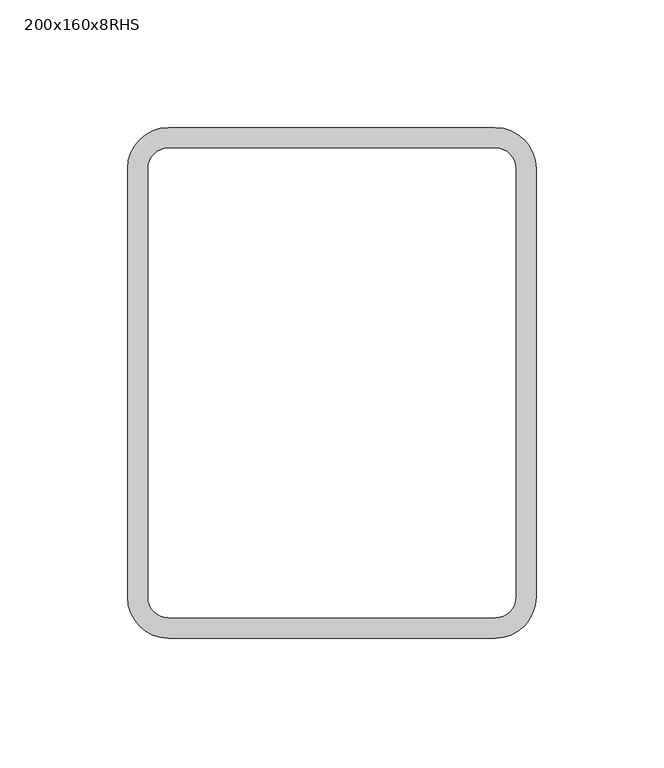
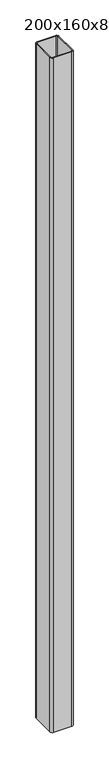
"""IFC4 building model written with IfcOpenShell, lengths in millimetres: column geometry, ППС-Прямоугольное пустотелое сечение-Колонна : 200x160x8RHS."""

import ifcopenshell
import ifcopenshell.guid

model = None  # the IFC model being written
_history = None  # IfcOwnerHistory: only IFC2X3 demands one
_inside = {}  # id of a spatial element -> (the spatial element, [elements in it])
_under = {}  # id of a project, library or spatial element -> (it, [spatial elements below it])
_declared = {}  # id of a project -> (the project, [libraries it declares])
_typed = {}  # id of a type object -> (the type object, [elements of that type])
_made_of = {}  # id of a material, layer set ... -> (it, [elements and type objects made of it])


def new_model(schema):
    """Start an empty IFC model of exactly this schema.

    Asked for "IFC4X3", IfcOpenShell would pick the latest addendum, in which some entities
    have other attributes; the version numbers below select the first issue.
    IFC2X3 requires an IfcOwnerHistory on every rooted entity: one is made here for all.
    """
    global model, _history
    if schema == "IFC4X3":
        model = ifcopenshell.file(schema_version=(4, 3, 0, 0))
    else:
        model = ifcopenshell.file(schema=schema)
    _inside.clear()
    _under.clear()
    _declared.clear()
    _typed.clear()
    _made_of.clear()
    _history = None
    if model.schema == "IFC2X3":
        org = make("IfcOrganization", Name="unknown")
        user = make(
            "IfcPersonAndOrganization",
            ThePerson=make("IfcPerson", FamilyName="unknown"),
            TheOrganization=org,
        )
        app = make(
            "IfcApplication",
            ApplicationDeveloper=org,
            Version="unknown",
            ApplicationFullName="unknown",
            ApplicationIdentifier="unknown",
        )
        _history = make(
            "IfcOwnerHistory",
            OwningUser=user,
            OwningApplication=app,
            ChangeAction="ADDED",
            CreationDate=0,
        )
    return model


def make(cls, **values):
    """One entity of the class cls with the attributes given. An attribute that is None is left unset."""
    return model.create_entity(
        cls, **{name: value for name, value in values.items() if value is not None}
    )


def rooted(cls, **values):
    """An entity with a GlobalId (a new one), such as an element, a storey or a relation."""
    return make(cls, GlobalId=ifcopenshell.guid.new(), OwnerHistory=_history, **values)


def si_unit(unit_type, name, prefix=None):
    """IfcSIUnit, for example si_unit("LENGTHUNIT", "METRE", prefix="MILLI")."""
    return make("IfcSIUnit", UnitType=unit_type, Prefix=prefix, Name=name)


def assignment(units):
    """IfcUnitAssignment: the units of a project."""
    return None if units is None else make("IfcUnitAssignment", Units=units)


def point(xyz):
    """IfcCartesianPoint."""
    return None if xyz is None else make("IfcCartesianPoint", Coordinates=xyz)


def direction(xyz):
    """IfcDirection."""
    return None if xyz is None else make("IfcDirection", DirectionRatios=xyz)


def frame(location, z_axis=None, x_axis=None):
    """IfcAxis2Placement3D, a coordinate frame: its origin and axes. An axis left out is left unset."""
    return make(
        "IfcAxis2Placement3D",
        Location=point(location),
        Axis=direction(z_axis),
        RefDirection=direction(x_axis),
    )


def frame_2d(location, x_axis=None):
    """IfcAxis2Placement2D, a coordinate frame in the plane: its origin and x axis."""
    return make(
        "IfcAxis2Placement2D", Location=point(location), RefDirection=direction(x_axis)
    )


def origin():
    """The frame at (0, 0, 0) with its axes left unset."""
    return frame((0.0, 0.0, 0.0))


def origin_with_axes():
    """The frame at (0, 0, 0) with the z axis (0, 0, 1) and the x axis (1, 0, 0) written out."""
    return frame((0.0, 0.0, 0.0), z_axis=(0.0, 0.0, 1.0), x_axis=(1.0, 0.0, 0.0))


def place(relative_to, where):
    """IfcLocalPlacement: puts the frame where relative to a parent placement (None: the world)."""
    return make(
        "IfcLocalPlacement", PlacementRelTo=relative_to, RelativePlacement=where
    )


def context(
    kind, dimensions, precision=None, world=None, true_north=None, identifier=None
):
    """IfcGeometricRepresentationContext, for example the 3D "Model" context."""
    return make(
        "IfcGeometricRepresentationContext",
        ContextIdentifier=identifier,
        ContextType=kind,
        CoordinateSpaceDimension=dimensions,
        Precision=precision,
        WorldCoordinateSystem=world,
        TrueNorth=true_north,
    )


def project(units=None, contexts=None):
    """IfcProject with its units and contexts."""
    return rooted(
        "IfcProject",
        Name="project",
        RepresentationContexts=contexts,
        UnitsInContext=assignment(units),
    )


def spatial(cls, under=None, at=None, **own):
    """A site, building, storey or space (cls), placed at a placement, below another one or the project."""
    s = rooted(cls, ObjectPlacement=at, **own)
    if under is not None:
        _under.setdefault(under.id(), (under, []))[1].append(s)
    return s


def polyline(points):
    """IfcPolyline through the points."""
    return make("IfcPolyline", Points=[point(p) for p in points])


def circle_curve(where, radius):
    """IfcCircle in the frame where."""
    return make("IfcCircle", Position=where, Radius=radius)


def trimmed(basis, trim1, trim2, sense, master):
    """IfcTrimmedCurve: the piece of a basis curve between two trims."""
    return make(
        "IfcTrimmedCurve",
        BasisCurve=basis,
        Trim1=trim1,
        Trim2=trim2,
        SenseAgreement=sense,
        MasterRepresentation=master,
    )


def segment(curve, same_sense, transition):
    """IfcCompositeCurveSegment."""
    return make(
        "IfcCompositeCurveSegment",
        Transition=transition,
        SameSense=same_sense,
        ParentCurve=curve,
    )


def composite_curve(segments, self_intersect=None):
    """IfcCompositeCurve: segments joined end to end."""
    return make("IfcCompositeCurve", Segments=segments, SelfIntersect=self_intersect)


def outline(outer, holes=None, kind="AREA"):
    """IfcArbitraryClosedProfileDef: a profile drawn as a closed curve; with holes, ...WithVoids."""
    if holes is None:
        return make("IfcArbitraryClosedProfileDef", ProfileType=kind, OuterCurve=outer)
    return make(
        "IfcArbitraryProfileDefWithVoids",
        ProfileType=kind,
        OuterCurve=outer,
        InnerCurves=holes,
    )


def extrude(swept, where, along, depth):
    """IfcExtrudedAreaSolid: the profile swept, set in the frame where, extruded along a direction by depth."""
    return make(
        "IfcExtrudedAreaSolid",
        SweptArea=swept,
        Position=where,
        ExtrudedDirection=direction(along),
        Depth=depth,
    )


def shape(context_of_items, identifier, shape_type, items):
    """IfcShapeRepresentation: the items that make up one representation, for example the "Body"."""
    return make(
        "IfcShapeRepresentation",
        ContextOfItems=context_of_items,
        RepresentationIdentifier=identifier,
        RepresentationType=shape_type,
        Items=items,
    )


def source(mapping_origin, context_of_items, identifier, shape_type, items):
    """IfcRepresentationMap: a shape defined once, which mapped items show again and again."""
    return make(
        "IfcRepresentationMap",
        MappingOrigin=mapping_origin,
        MappedRepresentation=shape(context_of_items, identifier, shape_type, items),
    )


def transform(
    local_origin,
    x_axis=None,
    y_axis=None,
    z_axis=None,
    scale=None,
    scale2=None,
    scale3=None,
    uniform=True,
):
    """IfcCartesianTransformationOperator3D, or its non-uniform kind. x_axis, y_axis, z_axis: its Axis1, 2, 3."""
    if uniform:
        return make(
            "IfcCartesianTransformationOperator3D",
            Axis1=direction(x_axis),
            Axis2=direction(y_axis),
            LocalOrigin=point(local_origin),
            Scale=scale,
            Axis3=direction(z_axis),
        )
    return make(
        "IfcCartesianTransformationOperator3DnonUniform",
        Axis1=direction(x_axis),
        Axis2=direction(y_axis),
        LocalOrigin=point(local_origin),
        Scale=scale,
        Axis3=direction(z_axis),
        Scale2=scale2,
        Scale3=scale3,
    )


def mapped(mapping_source, mapping_target):
    """IfcMappedItem: shows the shape of a source again, moved by a transform."""
    return make(
        "IfcMappedItem", MappingSource=mapping_source, MappingTarget=mapping_target
    )


def made_of(thing, what):
    """Note that an element or type object is made of a material, layer set ...; save() writes the relation."""
    if what is not None:
        _made_of.setdefault(what.id(), (what, []))[1].append(thing)
    return thing


def element(
    cls,
    number,
    at=None,
    inside=None,
    cuts=None,
    type_object=None,
    material=None,
    context=None,
    identifier="Body",
    shape_type=None,
    held_by="IfcProductDefinitionShape",
    body=None,
    shapes=None,
    **own,
):
    """One element of the class cls, such as IfcWall. Its Tag is "e" and its number.

    at: its placement. inside: the storey or other place that contains it. cuts: it is an
    opening in that element (IfcRelVoidsElement). A single representation is given by context,
    identifier, shape_type and body (its items); several are given by shapes. held_by: the class
    of the entity that holds the representations. save() writes the other relations.
    """
    e = rooted(cls, Tag="e%d" % number, ObjectPlacement=at, **own)
    if body is not None:
        shapes = [shape(context, identifier, shape_type, body)]
    if shapes is not None:
        e.Representation = make(held_by, Representations=shapes)
    if inside is not None:
        _inside.setdefault(inside.id(), (inside, []))[1].append(e)
    if cuts is not None:
        rooted(
            "IfcRelVoidsElement", RelatingBuildingElement=cuts, RelatedOpeningElement=e
        )
    if type_object is not None:
        _typed.setdefault(type_object.id(), (type_object, []))[1].append(e)
    return made_of(e, material)


def aggregate(whole, parts):
    """IfcRelAggregates: a whole, such as a stair, and the parts it consists of."""
    return rooted("IfcRelAggregates", RelatingObject=whole, RelatedObjects=parts)


def save(model, path):
    """Write the relations noted so far, then the file.

    IfcRelAggregates (storeys below a building ...), IfcRelContainedInSpatialStructure (elements
    in a storey), IfcRelDefinesByType, IfcRelAssociatesMaterial and IfcRelDeclares: one each for
    every whole, place, type object, material and project.
    """
    for whole, parts in _under.values():
        aggregate(whole, parts)
    for where, things in _inside.values():
        rooted(
            "IfcRelContainedInSpatialStructure",
            RelatedElements=things,
            RelatingStructure=where,
        )
    for kind, things in _typed.values():
        rooted("IfcRelDefinesByType", RelatedObjects=things, RelatingType=kind)
    for what, things in _made_of.values():
        rooted("IfcRelAssociatesMaterial", RelatedObjects=things, RelatingMaterial=what)
    for by, libraries in _declared.values():
        rooted("IfcRelDeclares", RelatingContext=by, RelatedDefinitions=libraries)
    model.write(path)


def column_200x160x8rhs_df1c46cb(model_context):
    return source(origin(), model_context, "Body", "SweptSolid", [
        extrude(outline(composite_curve([segment(trimmed(circle_curve(frame_2d((64.0, 84.0)), 16.0), [point((64.0, 100.0))], [point((80.0, 84.0))], False, "CARTESIAN"), True, "CONTINUOUS"), segment(polyline([(80.0, 84.0), (80.0, -84.0)]), True, "CONTINUOUS"), segment(trimmed(circle_curve(frame_2d((64.0, -84.0)), 16.0), [point((80.0, -84.0))], [point((64.0, -100.0))], False, "CARTESIAN"), True, "CONTINUOUS"), segment(polyline([(64.0, -100.0), (-64.0, -100.0)]), True, "CONTINUOUS"), segment(trimmed(circle_curve(frame_2d((-64.0, -84.0)), 16.0), [point((-64.0, -100.0))], [point((-80.0, -84.0))], False, "CARTESIAN"), True, "CONTINUOUS"), segment(polyline([(-80.0, -84.0), (-80.0, 84.0)]), True, "CONTINUOUS"), segment(trimmed(circle_curve(frame_2d((-64.0, 84.0)), 16.0), [point((-80.0, 84.0))], [point((-64.0, 100.0))], False, "CARTESIAN"), True, "CONTINUOUS"), segment(polyline([(-64.0, 100.0), (64.0, 100.0)]), True, "CONTINUOUS")], self_intersect=False), holes=[composite_curve([segment(polyline([(64.0, 92.0), (-64.0, 92.0)]), True, "CONTINUOUS"), segment(trimmed(circle_curve(frame_2d((-64.0, 84.0)), 8.0), [point((-64.0, 92.0))], [point((-72.0, 84.0))], True, "CARTESIAN"), True, "CONTINUOUS"), segment(polyline([(-72.0, 84.0), (-72.0, -84.0)]), True, "CONTINUOUS"), segment(trimmed(circle_curve(frame_2d((-64.0, -84.0)), 8.0), [point((-72.0, -84.0))], [point((-64.0, -92.0))], True, "CARTESIAN"), True, "CONTINUOUS"), segment(polyline([(-64.0, -92.0), (64.0, -92.0)]), True, "CONTINUOUS"), segment(trimmed(circle_curve(frame_2d((64.0, -84.0)), 8.0), [point((64.0, -92.0))], [point((72.0, -84.0))], True, "CARTESIAN"), True, "CONTINUOUS"), segment(polyline([(72.0, -84.0), (72.0, 84.0)]), True, "CONTINUOUS"), segment(trimmed(circle_curve(frame_2d((64.0, 84.0)), 8.0), [point((72.0, 84.0))], [point((64.0, 92.0))], True, "CARTESIAN"), True, "CONTINUOUS")], self_intersect=False)]), origin_with_axes(), (0.0, 0.0, 1.0), 5025.0),
    ])


if __name__ == "__main__":
    model = new_model("IFC4")
    model_context = context("Model", 3, world=origin())
    ifc_project = project(units=[si_unit("LENGTHUNIT", "METRE", prefix="MILLI")], contexts=[model_context])
    site = spatial("IfcSite", under=ifc_project)
    building = spatial("IfcBuilding", under=site)
    placement = place(None, origin())
    column_200x160x8rhs_shape = column_200x160x8rhs_df1c46cb(model_context)
    element("IfcColumn", 1, ObjectType="ППС-Прямоугольное пустотелое сечение-Колонна : 200x160x8RHS", at=placement, inside=building, context=model_context, shape_type="MappedRepresentation", body=[
        mapped(column_200x160x8rhs_shape, transform((0.0, 0.0, 0.0), x_axis=(1.0, 0.0, 0.0), y_axis=(0.0, 1.0, 0.0), z_axis=(0.0, 0.0, 1.0))),
    ])
    save(model, "model.ifc")
